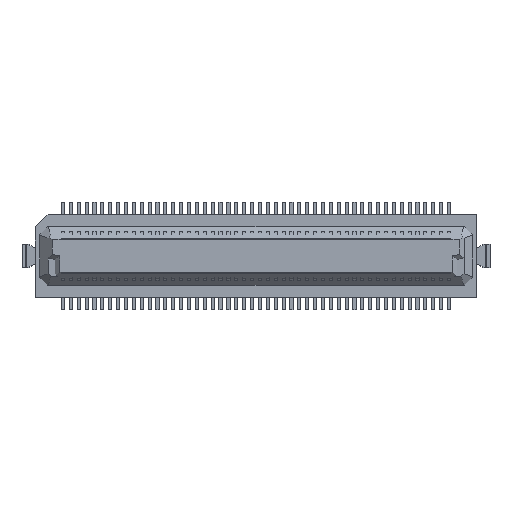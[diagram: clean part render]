
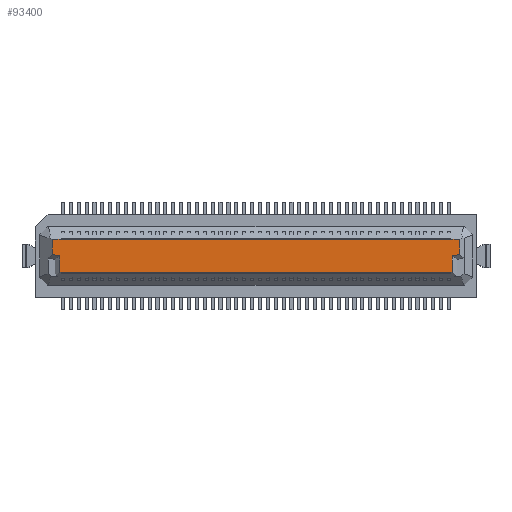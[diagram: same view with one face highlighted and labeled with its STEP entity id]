
A CAD part, top view. The second image highlights one B-rep face of the part: STEP entity #93400.
In plain terms, the highlighted planar face has unit normal (0, 0, 1).
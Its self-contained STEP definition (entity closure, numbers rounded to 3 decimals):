
#72850=CARTESIAN_POINT('',(8.763,-0.996,3.73));
#72860=VERTEX_POINT('',#72850);
#72910=CARTESIAN_POINT('',(0.,-0.996,3.73));
#72920=DIRECTION('',(-1.,0.,0.));
#72930=VECTOR('',#72920,1.);
#72940=LINE('',#72910,#72930);
#72950=CARTESIAN_POINT('',(8.203,-0.996,3.73));
#72960=VERTEX_POINT('',#72950);
#72970=EDGE_CURVE('',#72860,#72960,#72940,.T.);
#73190=CARTESIAN_POINT('',(34.043,-0.996,3.73));
#73200=VERTEX_POINT('',#73190);
#73230=CARTESIAN_POINT('',(17.5,-0.996,3.73));
#73240=DIRECTION('',(-1.,0.,0.));
#73250=VECTOR('',#73240,1.);
#73260=LINE('',#73230,#73250);
#73270=CARTESIAN_POINT('',(33.483,-0.996,3.73));
#73280=VERTEX_POINT('',#73270);
#73290=EDGE_CURVE('',#73200,#73280,#73260,.T.);
#74660=CARTESIAN_POINT('',(8.653,-2.041,3.73));
#74670=VERTEX_POINT('',#74660);
#74700=CARTESIAN_POINT('',(8.653,0.,3.73));
#74710=DIRECTION('',(0.,1.,0.));
#74720=VECTOR('',#74710,1.);
#74730=LINE('',#74700,#74720);
#74740=CARTESIAN_POINT('',(8.653,-3.086,3.73));
#74750=VERTEX_POINT('',#74740);
#74760=EDGE_CURVE('',#74750,#74670,#74730,.T.);
#81970=CARTESIAN_POINT('',(8.203,-1.941,3.73));
#81980=VERTEX_POINT('',#81970);
#82010=CARTESIAN_POINT('',(0.,-0.118,3.73));
#82020=DIRECTION('',(-0.976,0.217,0.));
#82030=VECTOR('',#82020,1.);
#82040=LINE('',#82010,#82030);
#82050=EDGE_CURVE('',#74670,#81980,#82040,.T.);
#87710=CARTESIAN_POINT('',(8.763,-3.086,3.73));
#87720=VERTEX_POINT('',#87710);
#92650=CARTESIAN_POINT('',(8.203,0.,3.73));
#92660=DIRECTION('',(0.,1.,0.));
#92670=VECTOR('',#92660,1.);
#92680=LINE('',#92650,#92670);
#92690=EDGE_CURVE('',#81980,#72960,#92680,.T.);
#92780=CARTESIAN_POINT('',(28.933,-3.166,3.73));
#92790=DIRECTION('',(0.,-0.,1.));
#92800=DIRECTION('',(0.,1.,0.));
#92810=AXIS2_PLACEMENT_3D('',#92780,#92790,#92800);
#92820=PLANE('',#92810);
#92830=CARTESIAN_POINT('',(0.,-3.086,3.73));
#92840=DIRECTION('',(-1.,0.,0.));
#92850=VECTOR('',#92840,1.);
#92860=LINE('',#92830,#92850);
#92870=EDGE_CURVE('',#87720,#74750,#92860,.T.);
#92880=ORIENTED_EDGE('',*,*,#92870,.F.);
#92890=ORIENTED_EDGE('',*,*,#74760,.F.);
#92900=ORIENTED_EDGE('',*,*,#82050,.F.);
#92910=ORIENTED_EDGE('',*,*,#92690,.F.);
#92920=ORIENTED_EDGE('',*,*,#72970,.T.);
#92930=CARTESIAN_POINT('',(4.5,-0.996,3.73));
#92940=DIRECTION('',(1.,0.,0.));
#92950=VECTOR('',#92940,1.);
#92960=LINE('',#92930,#92950);
#92970=EDGE_CURVE('',#72860,#73280,#92960,.T.);
#92980=ORIENTED_EDGE('',*,*,#92970,.F.);
#92990=ORIENTED_EDGE('',*,*,#73290,.T.);
#93000=CARTESIAN_POINT('',(34.043,0.,3.73));
#93010=DIRECTION('',(0.,1.,0.));
#93020=VECTOR('',#93010,1.);
#93030=LINE('',#93000,#93020);
#93040=CARTESIAN_POINT('',(34.043,-1.941,3.73));
#93050=VERTEX_POINT('',#93040);
#93060=EDGE_CURVE('',#93050,#73200,#93030,.T.);
#93070=ORIENTED_EDGE('',*,*,#93060,.T.);
#93080=CARTESIAN_POINT('',(17.5,-5.618,3.73));
#93090=DIRECTION('',(-0.976,-0.217,0.));
#93100=VECTOR('',#93090,1.);
#93110=LINE('',#93080,#93100);
#93120=CARTESIAN_POINT('',(33.593,-2.041,3.73));
#93130=VERTEX_POINT('',#93120);
#93140=EDGE_CURVE('',#93050,#93130,#93110,.T.);
#93150=ORIENTED_EDGE('',*,*,#93140,.F.);
#93160=CARTESIAN_POINT('',(33.593,0.,3.73));
#93170=DIRECTION('',(0.,1.,0.));
#93180=VECTOR('',#93170,1.);
#93190=LINE('',#93160,#93180);
#93200=CARTESIAN_POINT('',(33.593,-3.086,3.73));
#93210=VERTEX_POINT('',#93200);
#93220=EDGE_CURVE('',#93210,#93130,#93190,.T.);
#93230=ORIENTED_EDGE('',*,*,#93220,.T.);
#93240=CARTESIAN_POINT('',(17.5,-3.086,3.73));
#93250=DIRECTION('',(-1.,0.,0.));
#93260=VECTOR('',#93250,1.);
#93270=LINE('',#93240,#93260);
#93280=CARTESIAN_POINT('',(33.483,-3.086,3.73));
#93290=VERTEX_POINT('',#93280);
#93300=EDGE_CURVE('',#93210,#93290,#93270,.T.);
#93310=ORIENTED_EDGE('',*,*,#93300,.F.);
#93320=CARTESIAN_POINT('',(12.5,-3.086,3.73));
#93330=DIRECTION('',(-1.,0.,0.));
#93340=VECTOR('',#93330,1.);
#93350=LINE('',#93320,#93340);
#93360=EDGE_CURVE('',#93290,#87720,#93350,.T.);
#93370=ORIENTED_EDGE('',*,*,#93360,.F.);
#93380=EDGE_LOOP('',(#93370,#93310,#93230,#93150,#93070,#92990,#92980,
#92920,#92910,#92900,#92890,#92880));
#93390=FACE_OUTER_BOUND('',#93380,.T.);
#93400=ADVANCED_FACE('',(#93390),#92820,.T.);
